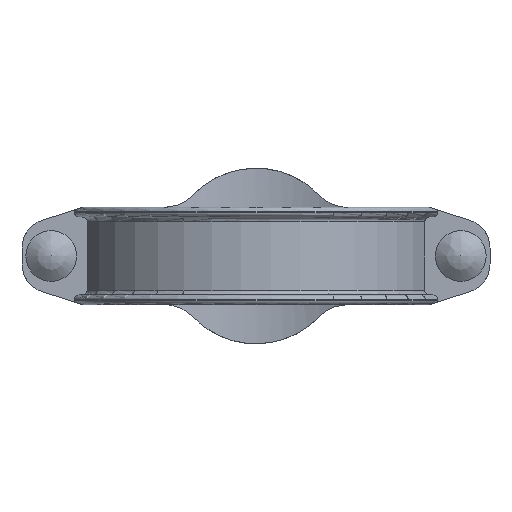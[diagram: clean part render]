
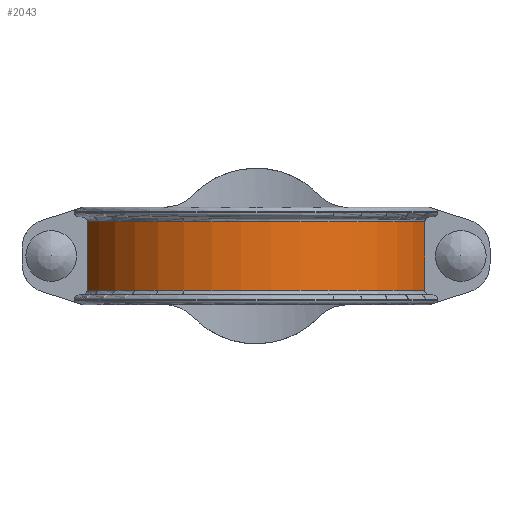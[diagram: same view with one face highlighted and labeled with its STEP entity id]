
A CAD part, front view. The second image highlights one B-rep face of the part: STEP entity #2043.
In plain terms, the highlighted cylindrical face has radius 115.888 mm (diameter 231.775 mm), a partial arc.
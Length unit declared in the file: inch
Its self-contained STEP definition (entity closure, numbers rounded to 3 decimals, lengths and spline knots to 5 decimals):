
#103=CYLINDRICAL_SURFACE('',#2242,4.5625);
#200=CIRCLE('',#2241,4.5625);
#201=CIRCLE('',#2243,4.5625);
#290=FACE_OUTER_BOUND('',#400,.T.);
#400=EDGE_LOOP('',(#1663,#1664,#1665,#1666));
#598=LINE('',#4218,#744);
#599=LINE('',#4221,#745);
#744=VECTOR('',#2739,0.3937);
#745=VECTOR('',#2742,0.3937);
#932=VERTEX_POINT('',#4193);
#933=VERTEX_POINT('',#4204);
#934=VERTEX_POINT('',#4217);
#935=VERTEX_POINT('',#4219);
#1203=EDGE_CURVE('',#932,#933,#200,.T.);
#1205=EDGE_CURVE('',#934,#932,#598,.T.);
#1206=EDGE_CURVE('',#934,#935,#201,.T.);
#1207=EDGE_CURVE('',#933,#935,#599,.T.);
#1663=ORIENTED_EDGE('',*,*,#1205,.F.);
#1664=ORIENTED_EDGE('',*,*,#1206,.T.);
#1665=ORIENTED_EDGE('',*,*,#1207,.F.);
#1666=ORIENTED_EDGE('',*,*,#1203,.F.);
#2043=ADVANCED_FACE('',(#290),#103,.T.);
#2241=AXIS2_PLACEMENT_3D('',#4205,#2735,#2736);
#2242=AXIS2_PLACEMENT_3D('',#4216,#2737,#2738);
#2243=AXIS2_PLACEMENT_3D('',#4220,#2740,#2741);
#2735=DIRECTION('center_axis',(0.,0.,1.));
#2736=DIRECTION('ref_axis',(-1.,0.,0.));
#2737=DIRECTION('center_axis',(0.,0.,1.));
#2738=DIRECTION('ref_axis',(-1.,0.,0.));
#2739=DIRECTION('',(0.,0.,1.));
#2740=DIRECTION('center_axis',(0.,0.,1.));
#2741=DIRECTION('ref_axis',(-1.,0.,0.));
#2742=DIRECTION('',(0.,0.,-1.));
#4193=CARTESIAN_POINT('',(-4.32863,-1.442,0.88));
#4204=CARTESIAN_POINT('',(4.32863,-1.442,0.88));
#4205=CARTESIAN_POINT('Origin',(0.,0.,
0.88));
#4216=CARTESIAN_POINT('Origin',(0.,0.,0.));
#4217=CARTESIAN_POINT('',(-4.32863,-1.442,-0.88));
#4218=CARTESIAN_POINT('',(-4.32863,-1.442,0.));
#4219=CARTESIAN_POINT('',(4.32863,-1.442,-0.88));
#4220=CARTESIAN_POINT('Origin',(0.,0.,
-0.88));
#4221=CARTESIAN_POINT('',(4.32863,-1.442,0.));
